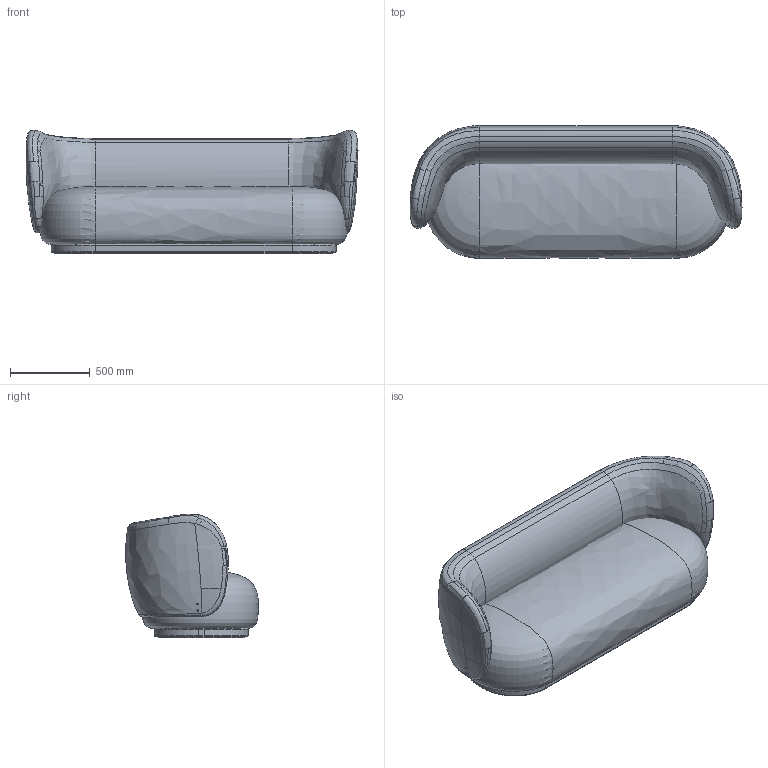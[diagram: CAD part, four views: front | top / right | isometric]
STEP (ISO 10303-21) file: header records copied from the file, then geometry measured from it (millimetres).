
FILE_DESCRIPTION(/* description */ (''),/* implementation_level */ '2;1');
FILE_NAME(/* name */ 'RPP0S7~C',/* time_stamp */ '2019-03-19T16:43:04+01:00',/* author */ (''),/* organization */ (''),/* preprocessor_version */ 'ST-DEVELOPER v15',/* originating_system */ '',/* authorisation */ '');
FILE_SCHEMA (('AUTOMOTIVE_DESIGN'));
Products named in the file (1): Document
Bounding box: 2076.23 x 830.45 x 773.03 mm (x, y, z)
Volume: 136797571.8 mm3; surface area: 10812671.6 mm2
Topology: 3 solids, 14 shells, 677 faces, 1981 edges, 1297 vertices
Faces by surface type: bspline 677
Entity records: 309791 total; most frequent: CARTESIAN_POINT 285501, B_SPLINE_CURVE_WITH_KNOTS 5211, ORIENTED_EDGE 3790, PCURVE 3790, DEFINITIONAL_REPRESENTATION 3790, SURFACE_CURVE 1959, EDGE_CURVE 1959, VERTEX_POINT 1289
